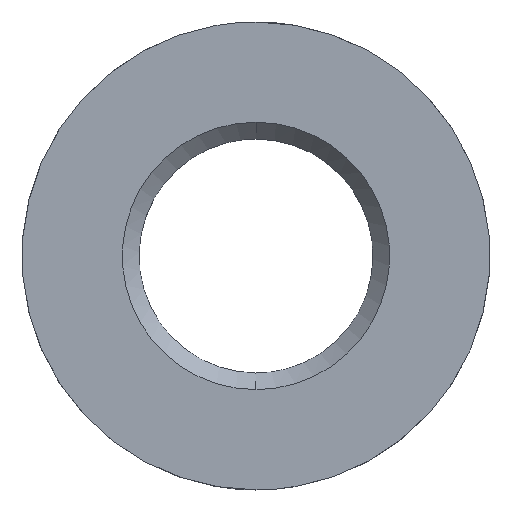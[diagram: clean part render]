
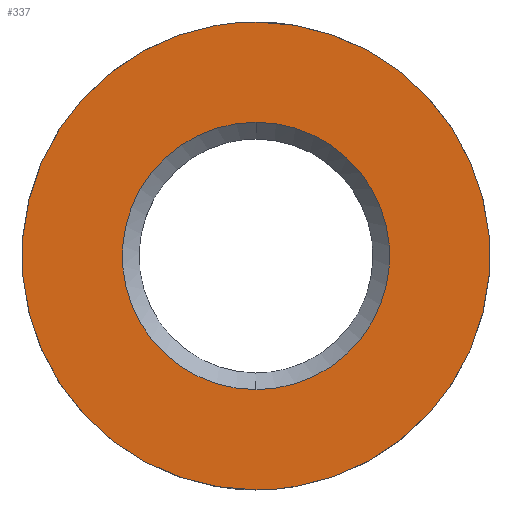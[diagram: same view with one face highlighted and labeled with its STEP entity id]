
A CAD part, top view. The second image highlights one B-rep face of the part: STEP entity #337.
In plain terms, the highlighted planar face has unit normal (0, 0, 1).
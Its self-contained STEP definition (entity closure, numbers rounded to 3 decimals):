
#19 = CARTESIAN_POINT ( 'NONE',  ( 14.421, 0.001, 6. ) ) ;
#22 = CARTESIAN_POINT ( 'NONE',  ( 9.425, -9.885, 6. ) ) ;
#52 = CARTESIAN_POINT ( 'NONE',  ( 22.802, -9.901, 6. ) ) ;
#57 = CARTESIAN_POINT ( 'NONE',  ( -25.238, -0.002, 6. ) ) ;
#58 = B_SPLINE_CURVE_WITH_KNOTS ( 'NONE', 8,
 ( #225, #404, #377, #198, #99, #129, #287, #196, #127 ),
 .UNSPECIFIED., .F., .F.,
 ( 9, 9 ),
 ( 0., 0.038 ),
 .UNSPECIFIED. ) ;
#70 = ORIENTED_EDGE ( 'NONE', *, *, #311, .T. ) ;
#88 = CARTESIAN_POINT ( 'NONE',  ( -22.802, 9.901, 6. ) ) ;
#99 = CARTESIAN_POINT ( 'NONE',  ( -14.421, -0.001, 6. ) ) ;
#103 = CARTESIAN_POINT ( 'NONE',  ( 0., -12., 6. ) ) ;
#110 = ORIENTED_EDGE ( 'NONE', *, *, #275, .T. ) ;
#115 = CARTESIAN_POINT ( 'NONE',  ( 0., -21., 6. ) ) ;
#124 = CARTESIAN_POINT ( 'NONE',  ( 0., -21., 6. ) ) ;
#127 = CARTESIAN_POINT ( 'NONE',  ( 0., 12., 6. ) ) ;
#128 = EDGE_CURVE ( 'NONE', #324, #389, #177, .T. ) ;
#129 = CARTESIAN_POINT ( 'NONE',  ( -13.03, 5.658, 6. ) ) ;
#131 = AXIS2_PLACEMENT_3D ( 'NONE', #194, #349, #320 ) ;
#154 = CARTESIAN_POINT ( 'NONE',  ( 4.712, -12., 6. ) ) ;
#155 = CARTESIAN_POINT ( 'NONE',  ( 16.493, 17.299, 6. ) ) ;
#161 = EDGE_LOOP ( 'NONE', ( #70, #110 ) ) ;
#162 = CARTESIAN_POINT ( 'NONE',  ( 0., -12., 6. ) ) ;
#177 = B_SPLINE_CURVE_WITH_KNOTS ( 'NONE', 8,
 ( #115, #242, #363, #365, #57, #88, #189, #339, #398 ),
 .UNSPECIFIED., .F., .F.,
 ( 9, 9 ),
 ( 0., 0.066 ),
 .UNSPECIFIED. ) ;
#182 = CARTESIAN_POINT ( 'NONE',  ( 22.802, 9.899, 6. ) ) ;
#186 = CARTESIAN_POINT ( 'NONE',  ( 9.425, 9.885, 6. ) ) ;
#189 = CARTESIAN_POINT ( 'NONE',  ( -16.493, 17.299, 6. ) ) ;
#194 = CARTESIAN_POINT ( 'NONE',  ( 21.84, -21.84, 6. ) ) ;
#196 = CARTESIAN_POINT ( 'NONE',  ( -4.712, 12., 6. ) ) ;
#198 = CARTESIAN_POINT ( 'NONE',  ( -13.03, -5.656, 6. ) ) ;
#202 = ORIENTED_EDGE ( 'NONE', *, *, #128, .F. ) ;
#221 = CARTESIAN_POINT ( 'NONE',  ( 0., 21., 6. ) ) ;
#224 = FACE_OUTER_BOUND ( 'NONE', #293, .T. ) ;
#225 = CARTESIAN_POINT ( 'NONE',  ( 0., -12., 6. ) ) ;
#226 = PLANE ( 'NONE',  #131 ) ;
#233 = EDGE_CURVE ( 'NONE', #389, #324, #376, .T. ) ;
#242 = CARTESIAN_POINT ( 'NONE',  ( -8.247, -21., 6. ) ) ;
#243 = CARTESIAN_POINT ( 'NONE',  ( 25.238, 0.002, 6. ) ) ;
#252 = CARTESIAN_POINT ( 'NONE',  ( 0., 21., 6. ) ) ;
#255 = ORIENTED_EDGE ( 'NONE', *, *, #233, .F. ) ;
#275 = EDGE_CURVE ( 'NONE', #327, #319, #346, .T. ) ;
#278 = CARTESIAN_POINT ( 'NONE',  ( 13.03, -5.658, 6. ) ) ;
#281 = CARTESIAN_POINT ( 'NONE',  ( 16.493, -17.299, 6. ) ) ;
#287 = CARTESIAN_POINT ( 'NONE',  ( -9.425, 9.885, 6. ) ) ;
#293 = EDGE_LOOP ( 'NONE', ( #255, #202 ) ) ;
#309 = CARTESIAN_POINT ( 'NONE',  ( 13.03, 5.656, 6. ) ) ;
#310 = CARTESIAN_POINT ( 'NONE',  ( 4.712, 12., 6. ) ) ;
#311 = EDGE_CURVE ( 'NONE', #319, #327, #58, .T. ) ;
#316 = CARTESIAN_POINT ( 'NONE',  ( 0., 12., 6. ) ) ;
#318 = CARTESIAN_POINT ( 'NONE',  ( 0., -21., 6. ) ) ;
#319 = VERTEX_POINT ( 'NONE', #103 ) ;
#320 = DIRECTION ( 'NONE',  ( 0., 1., 0. ) ) ;
#324 = VERTEX_POINT ( 'NONE', #318 ) ;
#327 = VERTEX_POINT ( 'NONE', #316 ) ;
#337 = ADVANCED_FACE ( 'NONE', ( #345, #224 ), #226, .T. ) ;
#339 = CARTESIAN_POINT ( 'NONE',  ( -8.247, 21., 6. ) ) ;
#344 = CARTESIAN_POINT ( 'NONE',  ( 8.247, 21., 6. ) ) ;
#345 = FACE_BOUND ( 'NONE', #161, .T. ) ;
#346 = B_SPLINE_CURVE_WITH_KNOTS ( 'NONE', 8,
 ( #364, #310, #186, #309, #19, #278, #22, #154, #162 ),
 .UNSPECIFIED., .F., .F.,
 ( 9, 9 ),
 ( 0., 0.038 ),
 .UNSPECIFIED. ) ;
#349 = DIRECTION ( 'NONE',  ( 0., 0., 1. ) ) ;
#363 = CARTESIAN_POINT ( 'NONE',  ( -16.493, -17.299, 6. ) ) ;
#364 = CARTESIAN_POINT ( 'NONE',  ( 0., 12., 6. ) ) ;
#365 = CARTESIAN_POINT ( 'NONE',  ( -22.802, -9.899, 6. ) ) ;
#367 = CARTESIAN_POINT ( 'NONE',  ( 8.247, -21., 6. ) ) ;
#376 = B_SPLINE_CURVE_WITH_KNOTS ( 'NONE', 8,
 ( #221, #344, #155, #182, #243, #52, #281, #367, #124 ),
 .UNSPECIFIED., .F., .F.,
 ( 9, 9 ),
 ( 0., 0.066 ),
 .UNSPECIFIED. ) ;
#377 = CARTESIAN_POINT ( 'NONE',  ( -9.425, -9.885, 6. ) ) ;
#389 = VERTEX_POINT ( 'NONE', #252 ) ;
#398 = CARTESIAN_POINT ( 'NONE',  ( 0., 21., 6. ) ) ;
#404 = CARTESIAN_POINT ( 'NONE',  ( -4.712, -12., 6. ) ) ;
